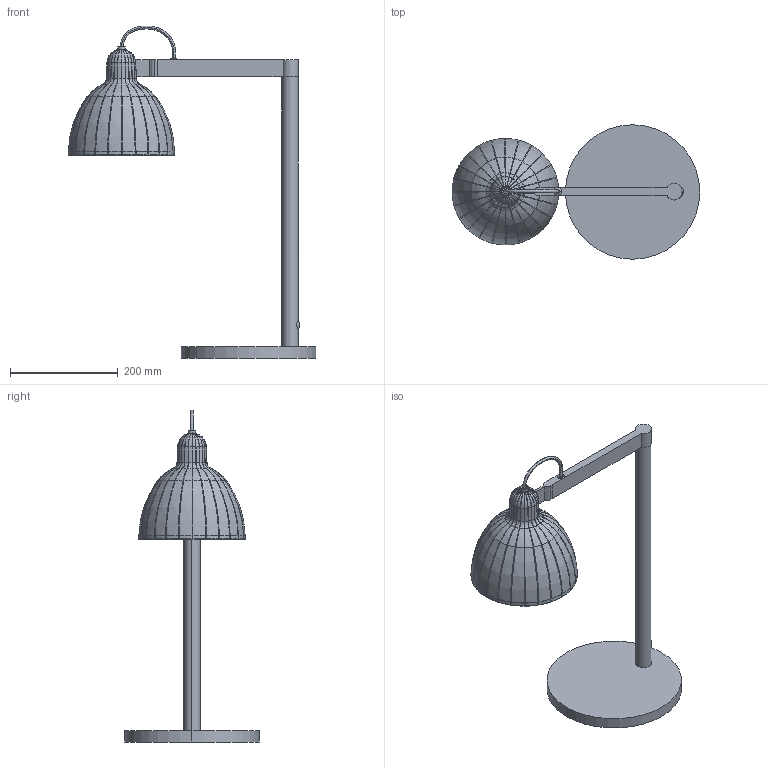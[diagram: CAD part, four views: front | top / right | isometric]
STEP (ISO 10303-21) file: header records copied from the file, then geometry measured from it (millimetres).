
FILE_DESCRIPTION(/* description */ (''),/* implementation_level */ '2;1');
FILE_NAME(/* name */ '64276-114.step',/* time_stamp */ '2024-05-13T10:37:01+02:00',/* author */ ('RenataManzini'),/* organization */ (''),/* preprocessor_version */ 'ST-DEVELOPER v20',/* originating_system */ 'AutoCAD Mechanical',/* authorisation */ '');
FILE_SCHEMA (('AUTOMOTIVE_DESIGN { 1 0 10303 214 3 1 1 }'));
Products named in the file (2): Product; Venice_sobremesa_rayas - venice-639068-_3D_
Assembly tree (1 placements, depth 2):
  Product
    Venice_sobremesa_rayas - venice-639068-_3D_
Bounding box: 460.58 x 250 x 617.51 mm (x, y, z)
Volume: 1728243.5 mm3; surface area: 595265.3 mm2
Topology: 7 solids, 52 shells, 886 faces, 2860 edges, 2015 vertices
Faces by surface type: bspline 310, cone 203, plane 187, torus 150, cylinder 36
Entity records: 41829 total; most frequent: CARTESIAN_POINT 18392, ORIENTED_EDGE 5054, DIRECTION 4541, EDGE_CURVE 2857, VERTEX_POINT 2010, AXIS2_PLACEMENT_3D 1852, CIRCLE 1273, EDGE_LOOP 887
